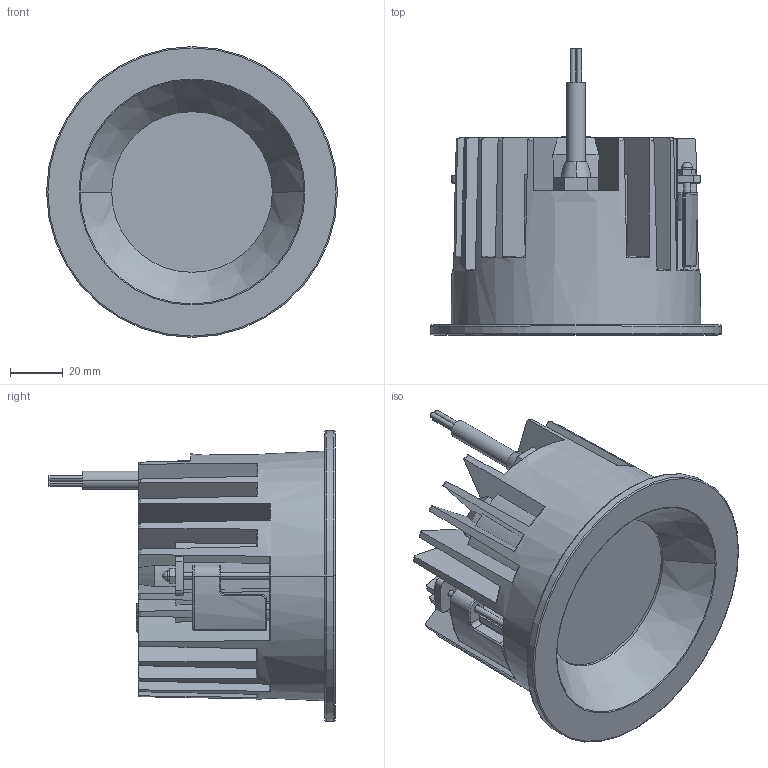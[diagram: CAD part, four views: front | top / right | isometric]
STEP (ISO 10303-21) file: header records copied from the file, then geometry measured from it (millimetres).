
FILE_DESCRIPTION((''),'2;1');
FILE_NAME('ASM0001_ASM','2025-12-15T19:16:39',('Administrator'),(''),'CREO PARAMETRIC BY PTC INC, 2021164','CREO PARAMETRIC BY PTC INC, 2021164','');
FILE_SCHEMA(('CONFIG_CONTROL_DESIGN','SHAPE_APPEARANCE_LAYERS_GROUPS'));
Length unit declared in the file: millimetre
Products named in the file (6): PRT0001; PRT0002; PRT0003; PRT0004; PRT0005; ASM0001_ASM
Assembly tree (5 placements, depth 2):
  ASM0001_ASM
    PRT0001
    PRT0002
    PRT0003
    PRT0004
    PRT0005
Bounding box: 110 x 108.2 x 110 mm (x, y, z)
Volume: 205555 mm3; surface area: 124210 mm2
Topology: 6 solids, 6 shells, 417 faces, 1082 edges, 696 vertices
Faces by surface type: plane 163, cylinder 133, torus 72, cone 27, bspline 14, sphere 8
Entity records: 20364 total; most frequent: CARTESIAN_POINT 3988, ORIENTED_EDGE 2164, DIRECTION 2077, PRESENTATION_STYLE_ASSIGNMENT 1503, STYLED_ITEM 1496, CURVE_STYLE 1082, EDGE_CURVE 1082, AXIS2_PLACEMENT_3D 863
